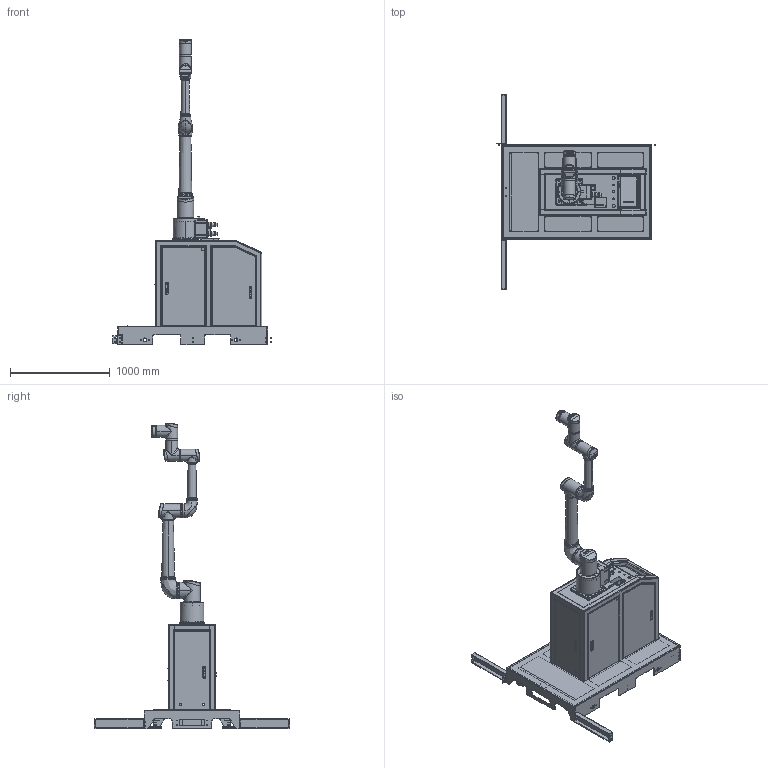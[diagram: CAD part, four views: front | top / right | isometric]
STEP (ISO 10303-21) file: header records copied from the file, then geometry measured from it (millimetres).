
FILE_DESCRIPTION((''),'2;1');
FILE_NAME('0001_ASM_182_ASM','2024-11-25T08:33:42',('EBDGC-08'),(''),'CREO PARAMETRIC BY PTC INC, 2021063','CREO PARAMETRIC BY PTC INC, 2021063','');
FILE_SCHEMA(('AUTOMOTIVE_DESIGN { 1 0 10303 214 1 1 1 1 }'));
Products named in the file (45): 80-800001_10; 0016_7; 60-600001_1; 0022_ASM_1_ASM; 0023_4; 0024_3; 0026_2; E-WAC58-D120-M20-L150-001_1; E-WAC58-D120-M20-L150-003_1; E-WAC58-D120-M20-L150-002_1; E-WAC58-D120-M20-L125_ASM_1_ASM; 0030_9; 0031_6; 0032_5; 0033_2; 0034_4; 0035_3; 0037_5; 0038_8; 0039_6; 0045_3; 0047_9; 0050_3; 00_1-702889; 0053_1; 0056_ASM_1_ASM; 0060_5; 0062_4; 0021_ASM_77_ASM; 0073_ASM_3_ASM; 00_ASM_1-2717204_ASM; 0075_ASM_10_ASM; 40-4000_1; 0083_2; 01000; 01_1; 02_1; 03_1; 04_1; 05_1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
Assembly tree (70 placements, depth 4):
  0001_ASM_182_ASM
    0021_ASM_77_ASM
      0022_ASM_1_ASM
        80-800001_10
        0016_7
        60-600001_1
      0023_4
      0024_3  x4
      0026_2  x4
      E-WAC58-D120-M20-L125_ASM_1_ASM  x4
        E-WAC58-D120-M20-L150-001_1
        E-WAC58-D120-M20-L150-003_1
        E-WAC58-D120-M20-L150-002_1
      0030_9
      0031_6
      0032_5
      0033_2
      0034_4
      0035_3
      0037_5  x2
      0038_8
      0039_6
      0045_3
      0047_9
      0050_3  x2
      00_1-702889  x5
      0053_1  x5
      0056_ASM_1_ASM
      0060_5
      0062_4  x4
    0073_ASM_3_ASM  x4
    0075_ASM_10_ASM
      00_ASM_1-2717204_ASM
    40-4000_1  x2
    0083_2
    01000
    BC1600-D-60001_ASM
      BC1600-D-6-20240_ASM_17_ASM_1_A_ASM
        01_1
        02_1
        03_1
        04_1
        05_1
        06_1
        07_1
Bounding box: 1595 x 1960 x 3071.21 mm (x, y, z)
Volume: 100609138.2 mm3; surface area: 18571802.4 mm2
Topology: 57 solids, 253 shells, 4467 faces, 14197 edges, 10013 vertices
Faces by surface type: cylinder 2070, plane 1797, cone 320, bspline 118, torus 99, sphere 54, extrusion 9
Entity records: 166917 total; most frequent: CARTESIAN_POINT 48188, DIRECTION 19289, ORIENTED_EDGE 17711, EDGE_CURVE 10388, VERTEX_POINT 7481, AXIS2_PLACEMENT_3D 6959, PRESENTATION_STYLE_ASSIGNMENT 5502, STYLED_ITEM 5488
